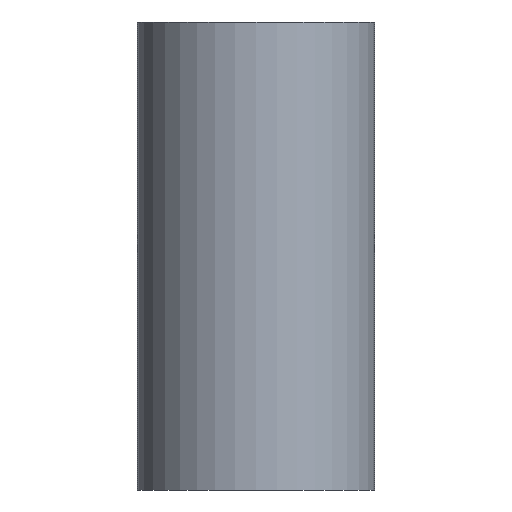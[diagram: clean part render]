
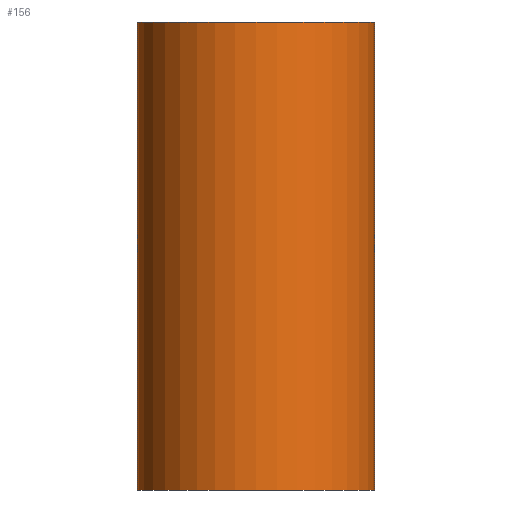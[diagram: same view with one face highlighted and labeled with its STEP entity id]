
A CAD part, front view. The second image highlights one B-rep face of the part: STEP entity #156.
In plain terms, the highlighted cylindrical face has radius 15 mm (diameter 30 mm), a full revolution.
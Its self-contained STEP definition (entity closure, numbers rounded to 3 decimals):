
#156 = ADVANCED_FACE('',(#157),#170,.T.);
#157 = FACE_BOUND('',#158,.T.);
#158 = EDGE_LOOP('',(#159,#193,#216,#243));
#159 = ORIENTED_EDGE('',*,*,#160,.F.);
#160 = EDGE_CURVE('',#161,#161,#163,.T.);
#161 = VERTEX_POINT('',#162);
#162 = CARTESIAN_POINT('',(250.,576.85,1297.));
#163 = SURFACE_CURVE('',#164,(#169,#181),.PCURVE_S1.);
#164 = CIRCLE('',#165,15.);
#165 = AXIS2_PLACEMENT_3D('',#166,#167,#168);
#166 = CARTESIAN_POINT('',(235.,576.85,1297.));
#167 = DIRECTION('',(0.,0.,1.));
#168 = DIRECTION('',(1.,0.,-0.));
#169 = PCURVE('',#170,#175);
#170 = CYLINDRICAL_SURFACE('',#171,15.);
#171 = AXIS2_PLACEMENT_3D('',#172,#173,#174);
#172 = CARTESIAN_POINT('',(235.,576.85,1238.));
#173 = DIRECTION('',(0.,0.,1.));
#174 = DIRECTION('',(1.,0.,-0.));
#175 = DEFINITIONAL_REPRESENTATION('',(#176),#180);
#176 = LINE('',#177,#178);
#177 = CARTESIAN_POINT('',(0.,59.));
#178 = VECTOR('',#179,1.);
#179 = DIRECTION('',(1.,0.));
#180 = ( GEOMETRIC_REPRESENTATION_CONTEXT(2) 
PARAMETRIC_REPRESENTATION_CONTEXT() REPRESENTATION_CONTEXT('2D SPACE',''
  ) );
#181 = PCURVE('',#182,#187);
#182 = PLANE('',#183);
#183 = AXIS2_PLACEMENT_3D('',#184,#185,#186);
#184 = CARTESIAN_POINT('',(235.,576.85,1297.));
#185 = DIRECTION('',(0.,0.,1.));
#186 = DIRECTION('',(1.,0.,-0.));
#187 = DEFINITIONAL_REPRESENTATION('',(#188),#192);
#188 = CIRCLE('',#189,15.);
#189 = AXIS2_PLACEMENT_2D('',#190,#191);
#190 = CARTESIAN_POINT('',(0.,0.));
#191 = DIRECTION('',(1.,0.));
#192 = ( GEOMETRIC_REPRESENTATION_CONTEXT(2) 
PARAMETRIC_REPRESENTATION_CONTEXT() REPRESENTATION_CONTEXT('2D SPACE',''
  ) );
#193 = ORIENTED_EDGE('',*,*,#194,.F.);
#194 = EDGE_CURVE('',#195,#161,#197,.T.);
#195 = VERTEX_POINT('',#196);
#196 = CARTESIAN_POINT('',(250.,576.85,1238.));
#197 = SEAM_CURVE('',#198,(#202,#209),.PCURVE_S1.);
#198 = LINE('',#199,#200);
#199 = CARTESIAN_POINT('',(250.,576.85,1238.));
#200 = VECTOR('',#201,1.);
#201 = DIRECTION('',(0.,0.,1.));
#202 = PCURVE('',#170,#203);
#203 = DEFINITIONAL_REPRESENTATION('',(#204),#208);
#204 = LINE('',#205,#206);
#205 = CARTESIAN_POINT('',(6.283,-0.));
#206 = VECTOR('',#207,1.);
#207 = DIRECTION('',(0.,1.));
#208 = ( GEOMETRIC_REPRESENTATION_CONTEXT(2) 
PARAMETRIC_REPRESENTATION_CONTEXT() REPRESENTATION_CONTEXT('2D SPACE',''
  ) );
#209 = PCURVE('',#170,#210);
#210 = DEFINITIONAL_REPRESENTATION('',(#211),#215);
#211 = LINE('',#212,#213);
#212 = CARTESIAN_POINT('',(0.,-0.));
#213 = VECTOR('',#214,1.);
#214 = DIRECTION('',(0.,1.));
#215 = ( GEOMETRIC_REPRESENTATION_CONTEXT(2) 
PARAMETRIC_REPRESENTATION_CONTEXT() REPRESENTATION_CONTEXT('2D SPACE',''
  ) );
#216 = ORIENTED_EDGE('',*,*,#217,.T.);
#217 = EDGE_CURVE('',#195,#195,#218,.T.);
#218 = SURFACE_CURVE('',#219,(#224,#231),.PCURVE_S1.);
#219 = CIRCLE('',#220,15.);
#220 = AXIS2_PLACEMENT_3D('',#221,#222,#223);
#221 = CARTESIAN_POINT('',(235.,576.85,1238.));
#222 = DIRECTION('',(0.,0.,1.));
#223 = DIRECTION('',(1.,0.,-0.));
#224 = PCURVE('',#170,#225);
#225 = DEFINITIONAL_REPRESENTATION('',(#226),#230);
#226 = LINE('',#227,#228);
#227 = CARTESIAN_POINT('',(0.,0.));
#228 = VECTOR('',#229,1.);
#229 = DIRECTION('',(1.,0.));
#230 = ( GEOMETRIC_REPRESENTATION_CONTEXT(2) 
PARAMETRIC_REPRESENTATION_CONTEXT() REPRESENTATION_CONTEXT('2D SPACE',''
  ) );
#231 = PCURVE('',#232,#237);
#232 = PLANE('',#233);
#233 = AXIS2_PLACEMENT_3D('',#234,#235,#236);
#234 = CARTESIAN_POINT('',(235.,576.85,1238.));
#235 = DIRECTION('',(0.,0.,1.));
#236 = DIRECTION('',(1.,0.,-0.));
#237 = DEFINITIONAL_REPRESENTATION('',(#238),#242);
#238 = CIRCLE('',#239,15.);
#239 = AXIS2_PLACEMENT_2D('',#240,#241);
#240 = CARTESIAN_POINT('',(0.,0.));
#241 = DIRECTION('',(1.,0.));
#242 = ( GEOMETRIC_REPRESENTATION_CONTEXT(2) 
PARAMETRIC_REPRESENTATION_CONTEXT() REPRESENTATION_CONTEXT('2D SPACE',''
  ) );
#243 = ORIENTED_EDGE('',*,*,#194,.T.);
